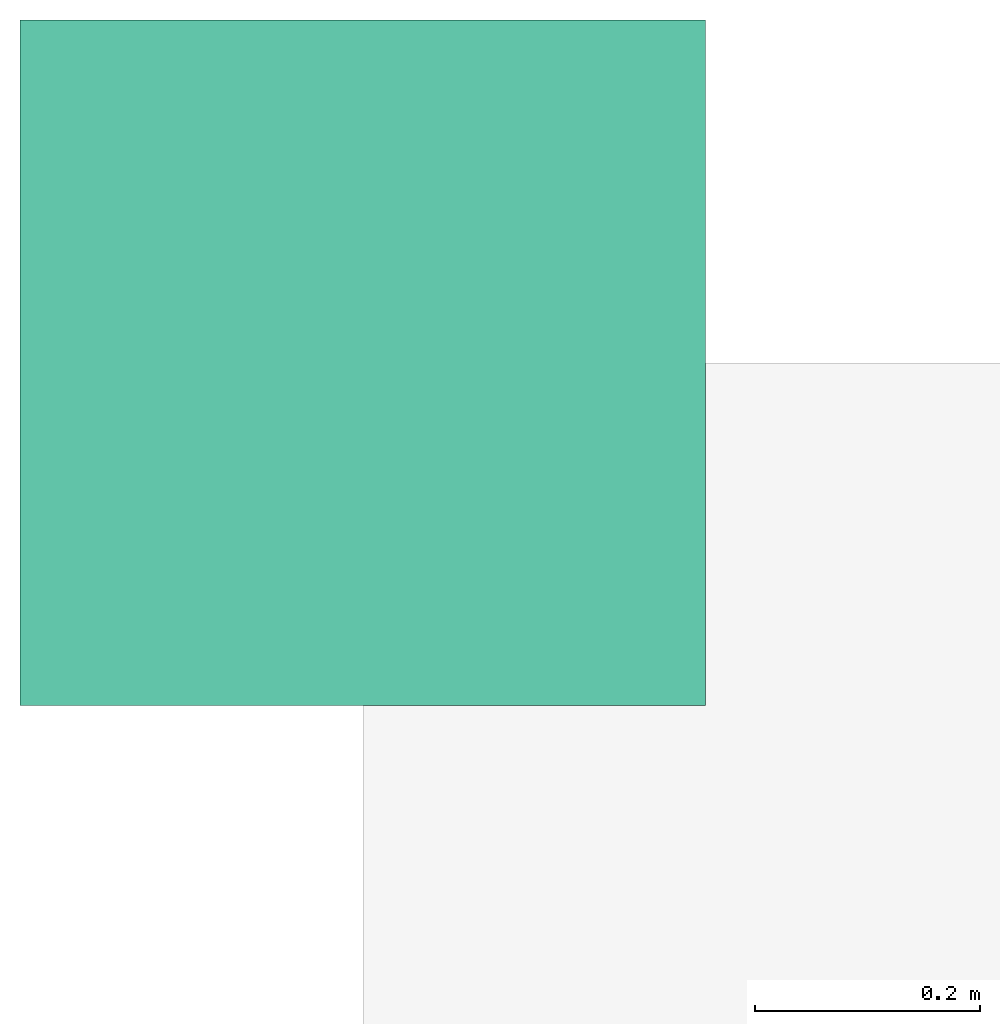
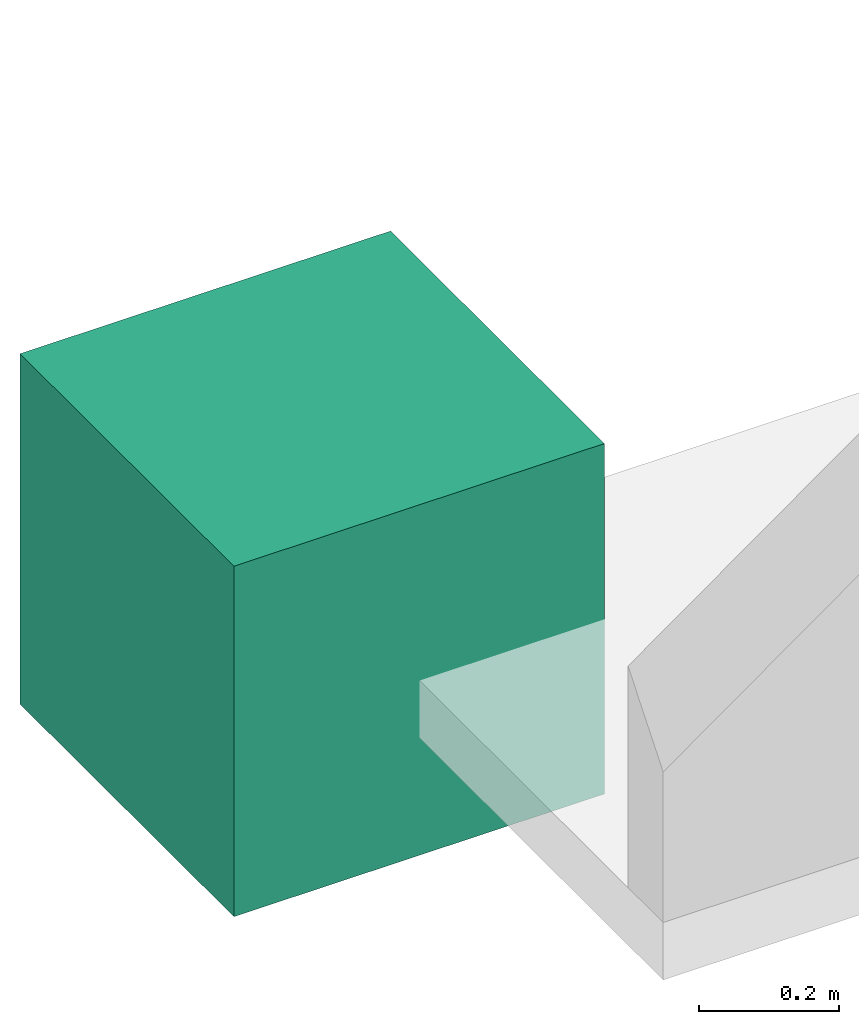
# One storey, part 2 of 2: 1 actuator.
"""IFC4 building model written with IfcOpenShell, lengths in feet."""

from ifc_helpers import new_model, entity, si_unit, converted_unit, frame, origin_with_axes, origin_2d_with_axis, place, context, subcontext, project, spatial, polygons, material, element, save


model = new_model("IFC4")

# Units and contexts
model_context = context("Model", 3, precision=1e-05, world=origin_with_axes())
plan_context = context("Plan", 2, precision=1e-05, world=origin_2d_with_axis())
body_context = subcontext(model_context, "Body", "Model", "MODEL_VIEW")
ifc_project = project(units=[converted_unit("LENGTHUNIT", "foot", entity("IfcReal", 0.3048), si_unit("LENGTHUNIT", "METRE"), dimensions=[1, 0, 0, 0, 0, 0, 0]), converted_unit("VOLUMEUNIT", "cubic foot", entity("IfcReal", 0.0283168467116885), si_unit("VOLUMEUNIT", "CUBIC_METRE"), dimensions=[3, 0, 0, 0, 0, 0, 0]), converted_unit("PLANEANGLEUNIT", "degree", entity("IfcReal", 0.0174532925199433), si_unit("PLANEANGLEUNIT", "RADIAN"), dimensions=[0, 0, 0, 0, 0, 0, 0]), converted_unit("AREAUNIT", "square foot", entity("IfcReal", 0.09290304), si_unit("AREAUNIT", "SQUARE_METRE"), dimensions=[2, 0, 0, 0, 0, 0, 0])], contexts=[model_context, plan_context])

# Site, building, storey
site_placement = place(None, origin_with_axes())
site = spatial("IfcSite", under=ifc_project, at=site_placement, Name="My Site")
building_placement = place(site_placement, origin_with_axes())
building = spatial("IfcBuilding", under=site, at=building_placement, Name="My Building")
storey_placement = place(building_placement, origin_with_axes())
storey = spatial("IfcBuildingStorey", under=building, at=storey_placement, Name="My Storey")

# Actuator
ifc_material = material(Name="Test Material")
actuator_placement = place(storey_placement, frame((0.0, 3.28083989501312, 0.0), z_axis=(0.0, 0.0, 1.0), x_axis=(1.0, 0.0, 0.0)))
element("IfcActuator", 1, at=actuator_placement, inside=storey, material=ifc_material, Name="Cube", PredefinedType="ELECTRICACTUATOR", context=body_context, shape_type="Tessellation", body=[
    polygons([(-1.0, -1.0, -1.0), (-1.0, -1.0, 1.0), (-1.0, 1.0, -1.0), (-1.0, 1.0, 1.0), (1.0, -1.0, -1.0), (1.0, -1.0, 1.0), (1.0, 1.0, -1.0), (1.0, 1.0, 1.0)], [[[1, 2, 4, 3]], [[3, 4, 8, 7]], [[7, 8, 6, 5]], [[5, 6, 2, 1]], [[3, 7, 5, 1]], [[8, 4, 2, 6]]], closed=True),
])

save(model, "model.ifc")
